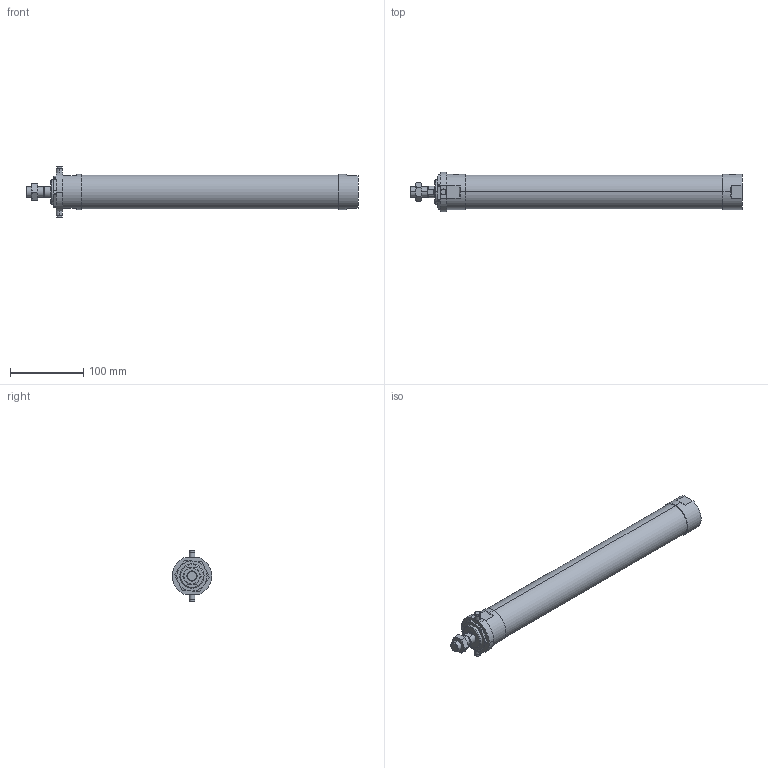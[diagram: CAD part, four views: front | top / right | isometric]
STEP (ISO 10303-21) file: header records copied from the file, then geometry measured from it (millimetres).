
FILE_DESCRIPTION (( 'STEP AP203' ), '1' );
FILE_NAME ('JGND2-40-300-T.STEP', '2016-08-04T03:17:04', ( '' ), ( '' ), 'SwSTEP 2.0', 'SolidWorks 2014', '' );
FILE_SCHEMA (( 'CONFIG_CONTROL_DESIGN' ));
Length unit declared in the file: millimetre
Products named in the file (5): J#2-40-T; J#2-40-300(P); JGND2-40-300-T
Assembly tree (4 placements, depth 2):
  JGND2-40-300-T
    J#2-40-300(P)
    (unnamed)
    (unnamed)
    J#2-40-T
Bounding box: 453 x 53.91 x 70 mm (x, y, z)
Volume: 710704.4 mm3; surface area: 76028.7 mm2
Topology: 4 solids, 4 shells, 116 faces, 269 edges, 165 vertices
Faces by surface type: plane 38, cylinder 33, torus 24, cone 21
Entity records: 4135 total; most frequent: CARTESIAN_POINT 1032, DIRECTION 550, ORIENTED_EDGE 530, EDGE_CURVE 265, AXIS2_PLACEMENT_3D 225, VERTEX_POINT 165, EDGE_LOOP 130, FACE_OUTER_BOUND 116
